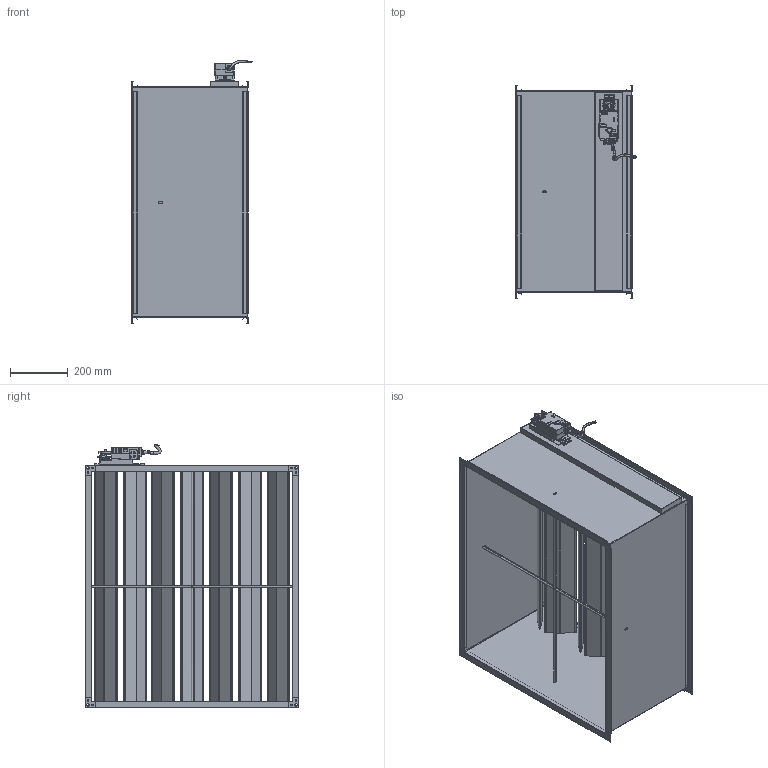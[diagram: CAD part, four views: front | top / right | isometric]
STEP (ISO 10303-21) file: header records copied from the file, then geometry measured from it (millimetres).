
FILE_DESCRIPTION (( 'STEP AP214' ), '1' );
FILE_NAME ('VAV-S800700.STEP', '2025-05-08T11:52:17', ( '' ), ( '' ), 'SwSTEP 2.0', 'SolidWorks 2025', '' );
FILE_SCHEMA (( 'AUTOMOTIVE_DESIGN' ));
Length unit declared in the file: millimetre
Products named in the file (1): VAV-S800700
Bounding box: 419.64 x 741 x 913.68 mm (x, y, z)
Surface area: 4927789.6 mm2 (no closed solid volume)
Topology: 0 solids, 48 shells, 2136 faces, 5587 edges, 3557 vertices
Faces by surface type: plane 1555, cylinder 528, bspline 24, sphere 18, cone 10, torus 1
Full cylindrical faces by diameter (mm): 1 x4, 6 x17, 8 x1, 9 x8, 11 x1, 20 x1, 21 x2
Entity records: 93048 total; most frequent: CARTESIAN_POINT 41586, ORIENTED_EDGE 10961, DIRECTION 7160, EDGE_CURVE 5504, VERTEX_POINT 3531, B_SPLINE_CURVE_WITH_KNOTS 3154, AXIS2_PLACEMENT_3D 2721, EDGE_LOOP 2346
